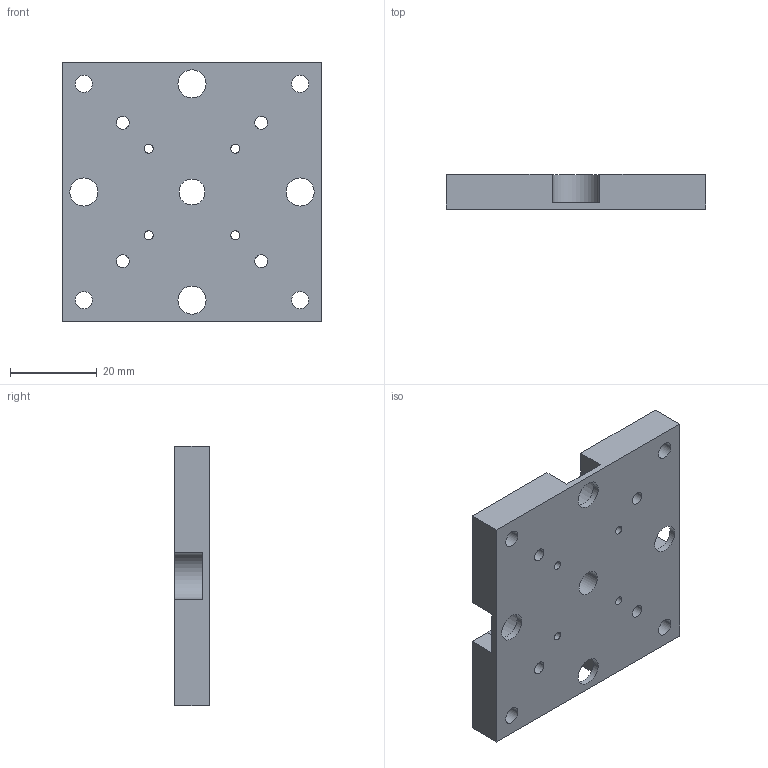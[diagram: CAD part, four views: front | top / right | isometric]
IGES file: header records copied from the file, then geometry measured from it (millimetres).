
Start section:  PTC IGES file: eua06.igs
Global section: file name: eua06.igs; native system: Pro/ENGINEER by Parametric Technology Corporation; preprocessor: 2006460; author: Owner; organization: Unknown; date: 20140827.104837; units: millimetre
Bounding box: 60 x 8 x 60 mm (x, y, z)
Surface area: 10217.1 mm2 (no closed solid volume)
Topology: 0 solids, 0 shells, 56 faces, 324 edges, 324 vertices
Faces by surface type: revolution 38, bspline 18
